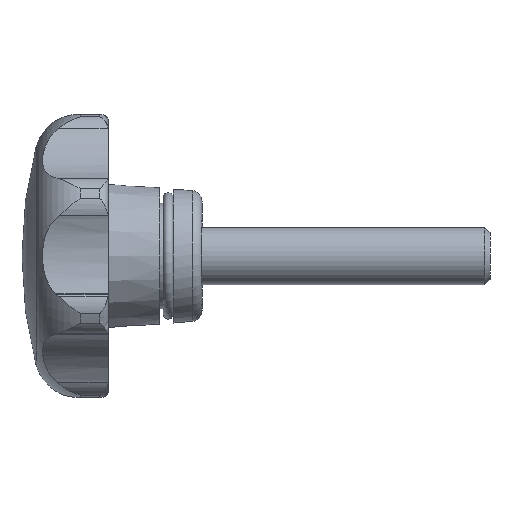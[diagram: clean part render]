
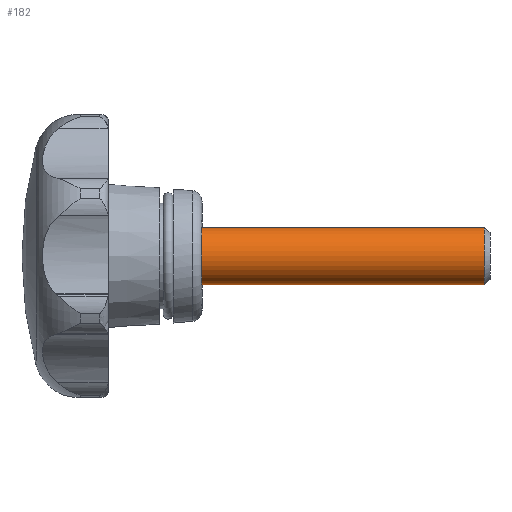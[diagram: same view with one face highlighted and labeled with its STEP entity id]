
A CAD part, left-side view. The second image highlights one B-rep face of the part: STEP entity #182.
In plain terms, the highlighted cylindrical face has radius 4 mm (diameter 8 mm), a full revolution.
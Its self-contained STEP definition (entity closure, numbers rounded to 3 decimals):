
#182 = ADVANCED_FACE( '', ( #364, #365 ), #366, .T. );
#364 = FACE_OUTER_BOUND( '', #729, .T. );
#365 = FACE_OUTER_BOUND( '', #730, .T. );
#366 = CYLINDRICAL_SURFACE( '', #731, 4. );
#729 = EDGE_LOOP( '', ( #1133 ) );
#730 = EDGE_LOOP( '', ( #1134 ) );
#731 = AXIS2_PLACEMENT_3D( '', #1135, #1136, #1137 );
#1133 = ORIENTED_EDGE( '', *, *, #2287, .F. );
#1134 = ORIENTED_EDGE( '', *, *, #2288, .T. );
#1135 = CARTESIAN_POINT( '', ( 0., -40., 0. ) );
#1136 = DIRECTION( '', ( 0., 1., 0. ) );
#1137 = DIRECTION( '', ( 0., 0., -1. ) );
#2287 = EDGE_CURVE( '', #2682, #2682, #2683, .T. );
#2288 = EDGE_CURVE( '', #2684, #2684, #2685, .T. );
#2682 = VERTEX_POINT( '', #3393 );
#2683 = CIRCLE( '', #3394, 4. );
#2684 = VERTEX_POINT( '', #3395 );
#2685 = CIRCLE( '', #3396, 4. );
#3393 = CARTESIAN_POINT( '', ( 0., -39.233, -4. ) );
#3394 = AXIS2_PLACEMENT_3D( '', #5058, #5059, #5060 );
#3395 = CARTESIAN_POINT( '', ( 0., 0., -4. ) );
#3396 = AXIS2_PLACEMENT_3D( '', #5061, #5062, #5063 );
#5058 = CARTESIAN_POINT( '', ( 0., -39.233, 0. ) );
#5059 = DIRECTION( '', ( 0., -1., 0. ) );
#5060 = DIRECTION( '', ( 0., 0., -1. ) );
#5061 = CARTESIAN_POINT( '', ( 0., 0., 0. ) );
#5062 = DIRECTION( '', ( 0., -1., 0. ) );
#5063 = DIRECTION( '', ( 0., 0., -1. ) );
